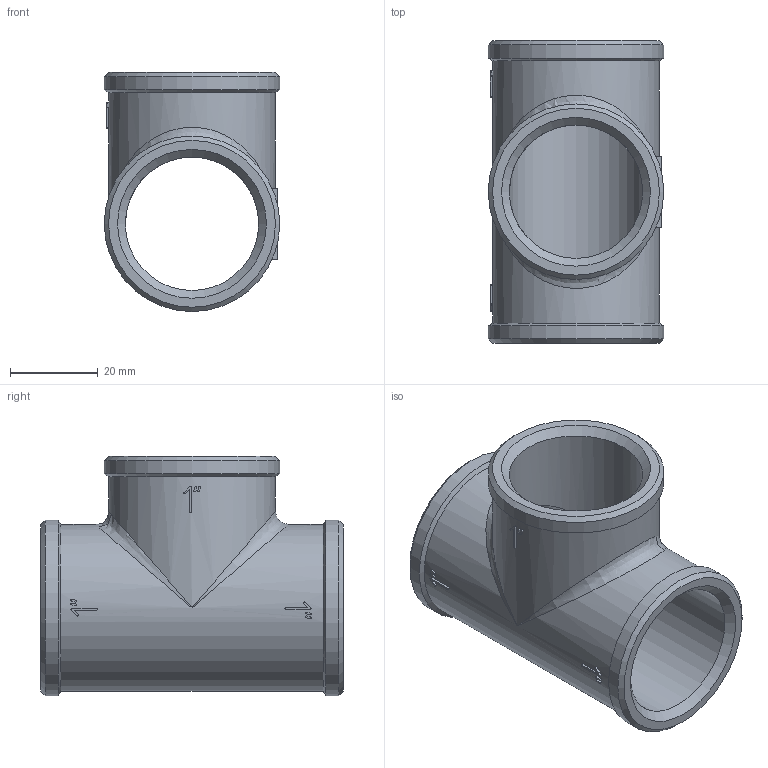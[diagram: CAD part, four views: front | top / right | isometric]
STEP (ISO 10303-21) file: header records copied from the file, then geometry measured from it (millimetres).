
FILE_DESCRIPTION(('STEP AP203'), '1');
FILE_NAME('ÂÐ.752243.004 - VTr.130.N.0006 - Ôèò. ðåçüá. òðîé', '2024-06-24T12:45:10', ('Boss'), (''), 'C3D Converter', 'C3D Toolkit', '');
FILE_SCHEMA(('CONFIG_CONTROL_DESIGN'));
Length unit declared in the file: millimetre
Products named in the file (1): ВР.752243.004
Bounding box: 40 x 69 x 54.5 mm (x, y, z)
Volume: 34529.6 mm3; surface area: 18983.7 mm2
Topology: 1 solids, 1 shells, 165 faces, 453 edges, 297 vertices
Faces by surface type: extrusion 81, plane 56, cylinder 17, cone 9, bspline 2
Full cylindrical faces by diameter (mm): 30.4 x2, 38 x2, 40 x3
Entity records: 7050 total; most frequent: CARTESIAN_POINT 3419, ORIENTED_EDGE 864, DIRECTION 470, EDGE_CURVE 432, VERTEX_POINT 297, B_SPLINE_CURVE_WITH_KNOTS 253, VECTOR 250, EDGE_LOOP 197
